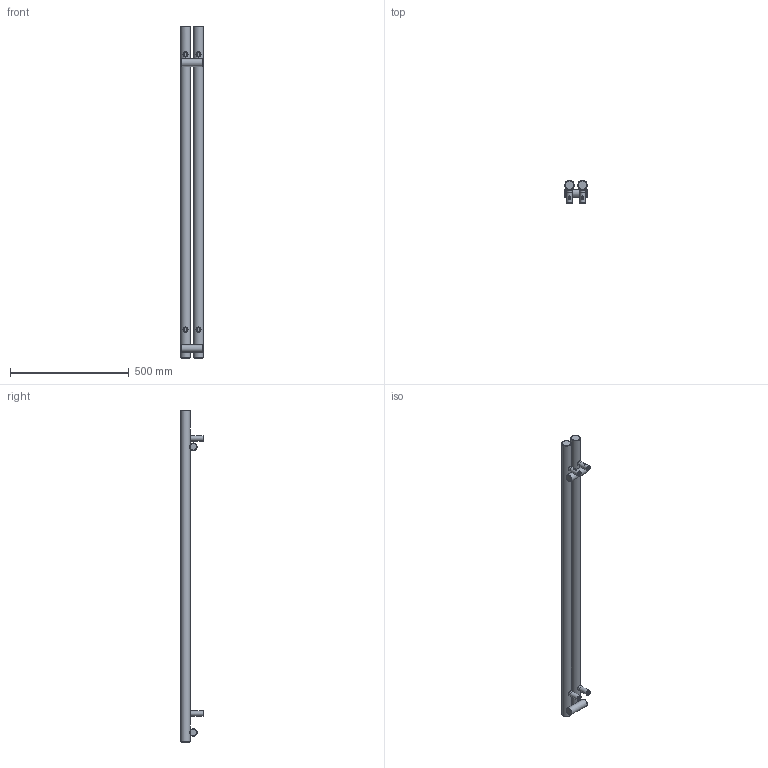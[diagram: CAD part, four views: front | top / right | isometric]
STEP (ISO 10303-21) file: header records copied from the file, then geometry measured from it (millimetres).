
FILE_DESCRIPTION(/* description */ (''),/* implementation_level */ '2;1');
FILE_NAME(/* name */ 'Z:\R\G\P\RGP116 - Grzejniki Geyser\Work\Inventor\Circolo (Rolo V, Rolo H)\ROLO-ROOM\Marketing\Bryły 3D\Zaokrąglone\WLROR140009-ES-CK-(Z).stp',/* time_stamp */ '2024-04-03T09:01:41+02:00',/* author */ ('NowAd'),/* organization */ (''),/* preprocessor_version */ 'ST-DEVELOPER v17.2',/* originating_system */ 'Autodesk Inventor 2019',/* authorisation */ '');
FILE_SCHEMA (('AUTOMOTIVE_DESIGN { 1 0 10303 214 3 1 1 }'));
Length unit declared in the file: millimetre
Products named in the file (3): WLROR140009-ES-CK-(Z); PGROR140009-ES-CK-(K); CK-V-fi40 marketing
Assembly tree (5 placements, depth 2):
  WLROR140009-ES-CK-(Z)
    PGROR140009-ES-CK-(K)
    CK-V-fi40 marketing  x4
Bounding box: 95 x 96.5 x 1400 mm (x, y, z)
Volume: 3714379.3 mm3; surface area: 409369.8 mm2
Topology: 5 solids, 5 shells, 296 faces, 754 edges, 504 vertices
Faces by surface type: plane 126, cylinder 70, cone 60, torus 36, bspline 4
Full cylindrical faces by diameter (mm): 4.134 x4, 4.48 x4, 6.4 x4, 10 x4, 12 x4, 15.834 x4, 16 x4, 18.631 x2, 22 x4, 32 x2, 40 x2
Entity records: 4660 total; most frequent: CARTESIAN_POINT 1883, DIRECTION 583, ORIENTED_EDGE 546, EDGE_CURVE 273, AXIS2_PLACEMENT_3D 256, VERTEX_POINT 186, EDGE_LOOP 139, CIRCLE 131
